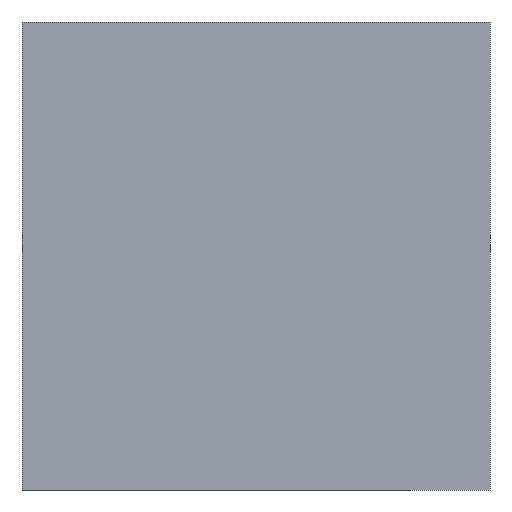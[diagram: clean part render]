
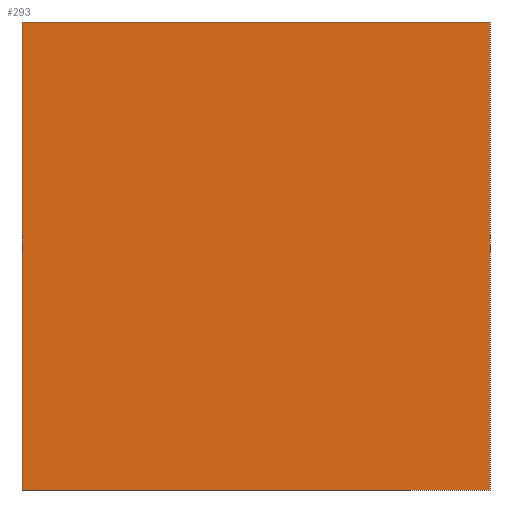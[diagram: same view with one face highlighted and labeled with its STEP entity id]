
A CAD part, left-side view. The second image highlights one B-rep face of the part: STEP entity #293.
In plain terms, the highlighted planar face has unit normal (-1, 0, 0).
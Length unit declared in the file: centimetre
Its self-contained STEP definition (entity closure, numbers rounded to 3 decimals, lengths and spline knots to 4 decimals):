
#2 = DIRECTION ( 'NONE',  ( 0., 0., -1. ) ) ;
#10 = CARTESIAN_POINT ( 'NONE',  ( 0., 1000., 0. ) ) ;
#22 = VECTOR ( 'NONE', #197, 100. ) ;
#44 = FACE_OUTER_BOUND ( 'NONE', #461, .T. ) ;
#47 = VERTEX_POINT ( 'NONE', #235 ) ;
#51 = CARTESIAN_POINT ( 'NONE',  ( 0., 1000., 1000. ) ) ;
#52 = EDGE_CURVE ( 'NONE', #260, #128, #376, .T. ) ;
#62 = CARTESIAN_POINT ( 'NONE',  ( 0., 1000., 1000. ) ) ;
#83 = PLANE ( 'NONE',  #263 ) ;
#90 = DIRECTION ( 'NONE',  ( 1., 0., 0. ) ) ;
#96 = VECTOR ( 'NONE', #122, 100. ) ;
#122 = DIRECTION ( 'NONE',  ( 0., -1., 0. ) ) ;
#128 = VERTEX_POINT ( 'NONE', #391 ) ;
#133 = LINE ( 'NONE', #424, #231 ) ;
#146 = EDGE_CURVE ( 'NONE', #47, #450, #133, .T. ) ;
#165 = DIRECTION ( 'NONE',  ( 0., 0., -1. ) ) ;
#171 = VECTOR ( 'NONE', #342, 100. ) ;
#194 = CARTESIAN_POINT ( 'NONE',  ( 0., 1000., 1000. ) ) ;
#197 = DIRECTION ( 'NONE',  ( 0., 0., -1. ) ) ;
#231 = VECTOR ( 'NONE', #165, 100. ) ;
#235 = CARTESIAN_POINT ( 'NONE',  ( 0., 0., 1000. ) ) ;
#245 = CARTESIAN_POINT ( 'NONE',  ( 0., 1000., 1000. ) ) ;
#256 = LINE ( 'NONE', #194, #171 ) ;
#260 = VERTEX_POINT ( 'NONE', #245 ) ;
#263 = AXIS2_PLACEMENT_3D ( 'NONE', #51, #90, #2 ) ;
#274 = ORIENTED_EDGE ( 'NONE', *, *, #146, .F. ) ;
#293 = ADVANCED_FACE ( 'NONE', ( #44 ), #83, .F. ) ;
#304 = ORIENTED_EDGE ( 'NONE', *, *, #305, .T. ) ;
#305 = EDGE_CURVE ( 'NONE', #128, #450, #436, .T. ) ;
#321 = EDGE_CURVE ( 'NONE', #260, #47, #256, .T. ) ;
#340 = ORIENTED_EDGE ( 'NONE', *, *, #52, .T. ) ;
#342 = DIRECTION ( 'NONE',  ( 0., -1., 0. ) ) ;
#376 = LINE ( 'NONE', #62, #22 ) ;
#391 = CARTESIAN_POINT ( 'NONE',  ( 0., 1000., 0. ) ) ;
#424 = CARTESIAN_POINT ( 'NONE',  ( 0., 0., 1000. ) ) ;
#425 = CARTESIAN_POINT ( 'NONE',  ( 0., 0., 0. ) ) ;
#436 = LINE ( 'NONE', #10, #96 ) ;
#450 = VERTEX_POINT ( 'NONE', #425 ) ;
#451 = ORIENTED_EDGE ( 'NONE', *, *, #321, .F. ) ;
#461 = EDGE_LOOP ( 'NONE', ( #304, #274, #451, #340 ) ) ;
